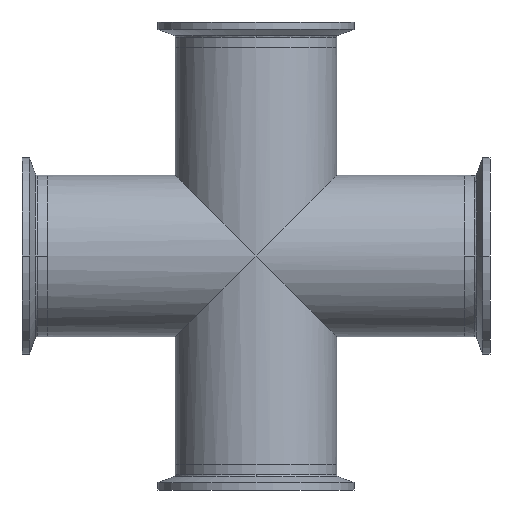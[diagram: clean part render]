
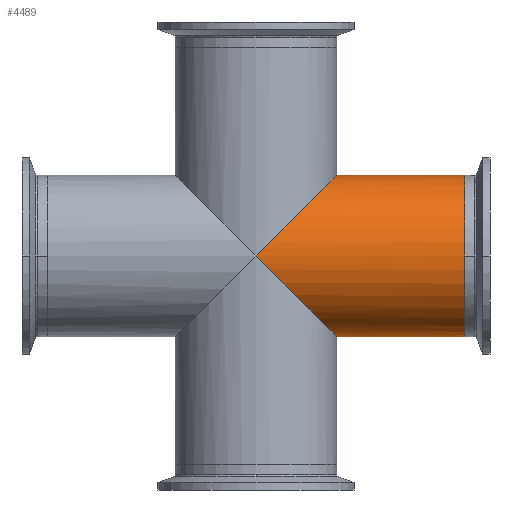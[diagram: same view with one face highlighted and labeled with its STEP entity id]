
A CAD part, front view. The second image highlights one B-rep face of the part: STEP entity #4489.
In plain terms, the highlighted cylindrical face has radius 31.75 mm (diameter 63.5 mm), a partial arc.
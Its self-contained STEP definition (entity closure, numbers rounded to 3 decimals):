
#422 =( BOUNDED_CURVE ( )  B_SPLINE_CURVE ( 3, ( #3958, #462, #1447, #4969 ),
 .UNSPECIFIED., .F., .F. ) 
 B_SPLINE_CURVE_WITH_KNOTS ( ( 4, 4 ),
 ( 0., 1.571 ),
 .UNSPECIFIED. ) 
 CURVE ( )  GEOMETRIC_REPRESENTATION_ITEM ( )  RATIONAL_B_SPLINE_CURVE ( ( 1., 0.805, 0.805, 1. ) ) 
 REPRESENTATION_ITEM ( '' )  );
#426 = CARTESIAN_POINT ( 'NONE',  ( 31.75, -18.599, 31.75 ) ) ;
#462 = CARTESIAN_POINT ( 'NONE',  ( 31.75, -18.599, -31.75 ) ) ;
#623 = CARTESIAN_POINT ( 'NONE',  ( 0., -31.75, 0. ) ) ;
#864 = DIRECTION ( 'NONE',  ( 1., 0., 0. ) ) ;
#1046 = FACE_OUTER_BOUND ( 'NONE', #1937, .T. ) ;
#1262 = VERTEX_POINT ( 'NONE', #2307 ) ;
#1447 = CARTESIAN_POINT ( 'NONE',  ( 18.599, -31.75, -18.599 ) ) ;
#1787 = ORIENTED_EDGE ( 'NONE', *, *, #5001, .T. ) ;
#1937 = EDGE_LOOP ( 'NONE', ( #4794, #3444, #5822, #1787, #5649 ) ) ;
#2000 = VERTEX_POINT ( 'NONE', #5949 ) ;
#2031 = DIRECTION ( 'NONE',  ( -1., 0., 0. ) ) ;
#2059 = EDGE_CURVE ( 'NONE', #1262, #5958, #422, .T. ) ;
#2102 = AXIS2_PLACEMENT_3D ( 'NONE', #5061, #2031, #5568 ) ;
#2307 = CARTESIAN_POINT ( 'NONE',  ( 31.75, 0., -31.75 ) ) ;
#2335 = CARTESIAN_POINT ( 'NONE',  ( -82.075, 0., -31.75 ) ) ;
#2425 = CARTESIAN_POINT ( 'NONE',  ( -82.075, 0., 0. ) ) ;
#2432 = CARTESIAN_POINT ( 'NONE',  ( 0., -31.75, 0. ) ) ;
#2496 = DIRECTION ( 'NONE',  ( 1., 0., 0. ) ) ;
#2632 = VERTEX_POINT ( 'NONE', #5936 ) ;
#3206 = AXIS2_PLACEMENT_3D ( 'NONE', #2425, #4224, #5441 ) ;
#3444 = ORIENTED_EDGE ( 'NONE', *, *, #5784, .T. ) ;
#3552 = CYLINDRICAL_SURFACE ( 'NONE', #3206, 31.75 ) ;
#3606 = VECTOR ( 'NONE', #2496, 1000. ) ;
#3956 = EDGE_CURVE ( 'NONE', #5624, #2632, #6403, .T. ) ;
#3958 = CARTESIAN_POINT ( 'NONE',  ( 31.75, 0., -31.75 ) ) ;
#4211 = CARTESIAN_POINT ( 'NONE',  ( 82.075, 0., -31.75 ) ) ;
#4224 = DIRECTION ( 'NONE',  ( 1., 0., 0. ) ) ;
#4489 = ADVANCED_FACE ( 'NONE', ( #1046 ), #3552, .T. ) ;
#4794 = ORIENTED_EDGE ( 'NONE', *, *, #5444, .F. ) ;
#4807 = LINE ( 'NONE', #5520, #3606 ) ;
#4890 = VECTOR ( 'NONE', #864, 1000. ) ;
#4958 = CARTESIAN_POINT ( 'NONE',  ( 31.75, 0., 31.75 ) ) ;
#4969 = CARTESIAN_POINT ( 'NONE',  ( 0., -31.75, 0. ) ) ;
#5001 = EDGE_CURVE ( 'NONE', #1262, #5624, #6235, .T. ) ;
#5061 = CARTESIAN_POINT ( 'NONE',  ( 82.075, 0., 0. ) ) ;
#5441 = DIRECTION ( 'NONE',  ( 0., 0., -1. ) ) ;
#5444 = EDGE_CURVE ( 'NONE', #2000, #2632, #4807, .T. ) ;
#5453 = CARTESIAN_POINT ( 'NONE',  ( 18.599, -31.75, 18.599 ) ) ;
#5520 = CARTESIAN_POINT ( 'NONE',  ( -82.075, 0., 31.75 ) ) ;
#5568 = DIRECTION ( 'NONE',  ( 0., 0., -1. ) ) ;
#5590 =( BOUNDED_CURVE ( )  B_SPLINE_CURVE ( 3, ( #4958, #426, #5453, #2432 ),
 .UNSPECIFIED., .F., .T. ) 
 B_SPLINE_CURVE_WITH_KNOTS ( ( 4, 4 ),
 ( 0., 1.571 ),
 .UNSPECIFIED. ) 
 CURVE ( )  GEOMETRIC_REPRESENTATION_ITEM ( )  RATIONAL_B_SPLINE_CURVE ( ( 1., 0.805, 0.805, 1. ) ) 
 REPRESENTATION_ITEM ( '' )  );
#5624 = VERTEX_POINT ( 'NONE', #4211 ) ;
#5649 = ORIENTED_EDGE ( 'NONE', *, *, #3956, .T. ) ;
#5784 = EDGE_CURVE ( 'NONE', #2000, #5958, #5590, .T. ) ;
#5822 = ORIENTED_EDGE ( 'NONE', *, *, #2059, .F. ) ;
#5936 = CARTESIAN_POINT ( 'NONE',  ( 82.075, 0., 31.75 ) ) ;
#5949 = CARTESIAN_POINT ( 'NONE',  ( 31.75, 0., 31.75 ) ) ;
#5958 = VERTEX_POINT ( 'NONE', #623 ) ;
#6235 = LINE ( 'NONE', #2335, #4890 ) ;
#6403 = CIRCLE ( 'NONE', #2102, 31.75 ) ;
